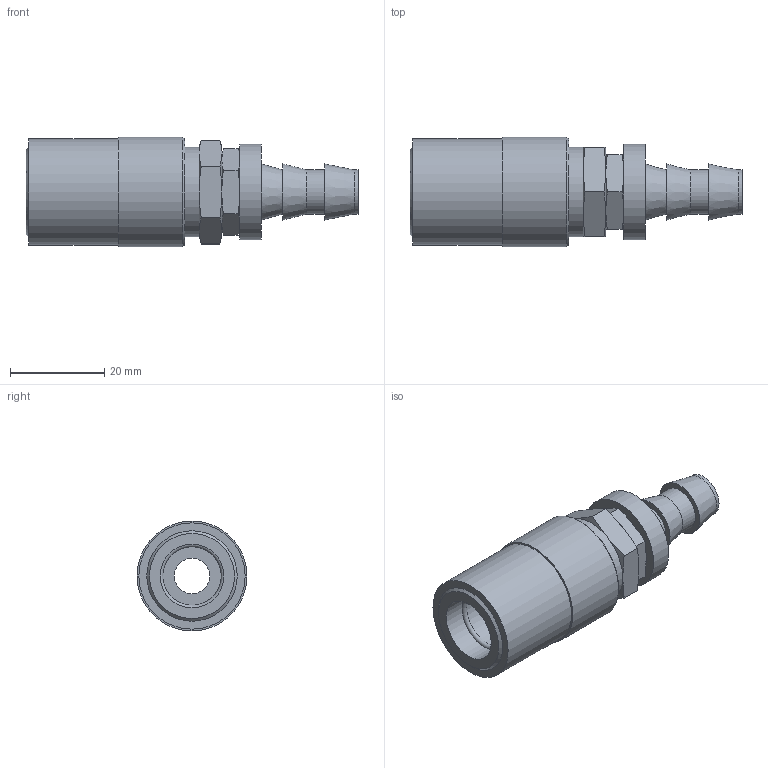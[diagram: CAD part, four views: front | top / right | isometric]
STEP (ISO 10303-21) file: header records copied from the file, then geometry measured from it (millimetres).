
FILE_DESCRIPTION(/* description */ ('STEP AP214'),/* implementation_level */ '2;1');
FILE_NAME(/* name */ 'JSL0306-V',/* time_stamp */ '2024-12-19T09:06:48+01:00',/* author */ ('License CC BY-ND 4.0'),/* organization */ ('CADENAS'),/* preprocessor_version */ 'ST-DEVELOPER v19.3',/* originating_system */ 'PARTsolutions',/* authorisation */ ' ');
FILE_SCHEMA (('AUTOMOTIVE_DESIGN {1 0 10303 214 3 1 1}'));
Length unit declared in the file: inch
Products named in the file (1): JSL0306-V
Bounding box: 70.57 x 23.37 x 23.37 mm (x, y, z)
Volume: 15600.5 mm3; surface area: 7205.2 mm2
Topology: 1 solids, 1 shells, 68 faces, 142 edges, 85 vertices
Faces by surface type: cone 29, plane 27, cylinder 11, torus 1
Full cylindrical faces by diameter (mm): 7.518 x1, 9.398 x2, 13.564 x2, 19.05 x1, 20.32 x1, 22.606 x1, 23.368 x1
Entity records: 1794 total; most frequent: CARTESIAN_POINT 447, DIRECTION 260, ORIENTED_EDGE 252, EDGE_CURVE 126, AXIS2_PLACEMENT_3D 121, EDGE_LOOP 94, FACE_BOUND 94, VERTEX_POINT 84
